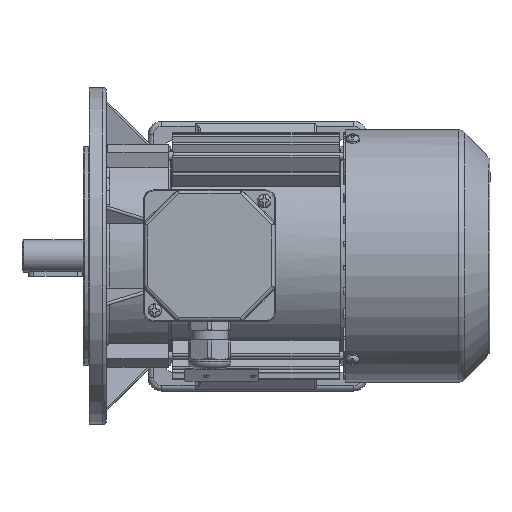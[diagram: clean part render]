
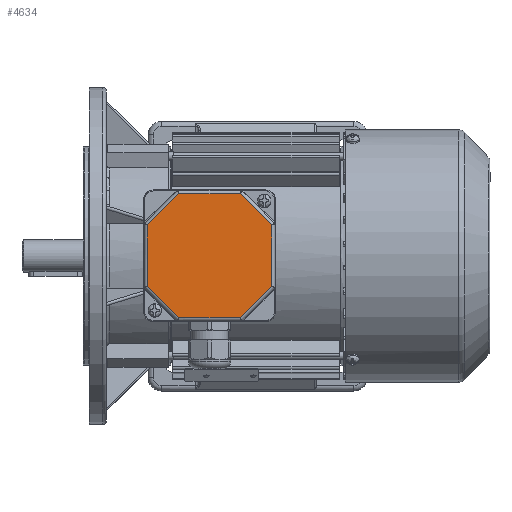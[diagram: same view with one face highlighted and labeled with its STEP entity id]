
A CAD part, top view. The second image highlights one B-rep face of the part: STEP entity #4634.
In plain terms, the highlighted planar face has unit normal (0, 0, 1).
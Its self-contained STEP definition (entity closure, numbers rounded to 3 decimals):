
#4634 = ADVANCED_FACE( '', ( #10772 ), #10773, .T. );
#10772 = FACE_OUTER_BOUND( '', #23736, .T. );
#10773 = PLANE( '', #23737 );
#23736 = EDGE_LOOP( '', ( #49616, #49617, #49618, #49619, #49620, #49621, #49622, #49623 ) );
#23737 = AXIS2_PLACEMENT_3D( '', #49624, #49625, #49626 );
#49616 = ORIENTED_EDGE( '', *, *, #70712, .T. );
#49617 = ORIENTED_EDGE( '', *, *, #69578, .T. );
#49618 = ORIENTED_EDGE( '', *, *, #70713, .T. );
#49619 = ORIENTED_EDGE( '', *, *, #67310, .T. );
#49620 = ORIENTED_EDGE( '', *, *, #69531, .T. );
#49621 = ORIENTED_EDGE( '', *, *, #70714, .T. );
#49622 = ORIENTED_EDGE( '', *, *, #70715, .T. );
#49623 = ORIENTED_EDGE( '', *, *, #70716, .T. );
#49624 = CARTESIAN_POINT( '', ( -39., 39., 12. ) );
#49625 = DIRECTION( '', ( 0., 0., 1. ) );
#49626 = DIRECTION( '', ( 1., 0., 0. ) );
#67310 = EDGE_CURVE( '', #76696, #76697, #76698, .T. );
#69531 = EDGE_CURVE( '', #76697, #80561, #80562, .F. );
#69578 = EDGE_CURVE( '', #80638, #80639, #80640, .T. );
#70712 = EDGE_CURVE( '', #82487, #80638, #82488, .F. );
#70713 = EDGE_CURVE( '', #80639, #76696, #82489, .F. );
#70714 = EDGE_CURVE( '', #80561, #82490, #82491, .T. );
#70715 = EDGE_CURVE( '', #82490, #82492, #82493, .F. );
#70716 = EDGE_CURVE( '', #82492, #82487, #82494, .T. );
#76696 = VERTEX_POINT( '', #90507 );
#76697 = VERTEX_POINT( '', #90508 );
#76698 = LINE( '', #90509, #90510 );
#80561 = VERTEX_POINT( '', #99578 );
#80562 = LINE( '', #99579, #99580 );
#80638 = VERTEX_POINT( '', #99671 );
#80639 = VERTEX_POINT( '', #99672 );
#80640 = LINE( '', #99673, #99674 );
#82487 = VERTEX_POINT( '', #105124 );
#82488 = LINE( '', #105125, #105126 );
#82489 = LINE( '', #105127, #105128 );
#82490 = VERTEX_POINT( '', #105129 );
#82491 = LINE( '', #105130, #105131 );
#82492 = VERTEX_POINT( '', #105132 );
#82493 = LINE( '', #105133, #105134 );
#82494 = LINE( '', #105135, #105136 );
#90507 = CARTESIAN_POINT( '', ( -18.255, 36.825, 12. ) );
#90508 = CARTESIAN_POINT( '', ( -36.825, 18.255, 12. ) );
#90509 = CARTESIAN_POINT( '', ( -37.401, 17.679, 12. ) );
#90510 = VECTOR( '', #126121, 1000. );
#99578 = CARTESIAN_POINT( '', ( -36.825, -18.255, 12. ) );
#99579 = CARTESIAN_POINT( '', ( -36.825, -19.069, 12. ) );
#99580 = VECTOR( '', #128833, 1000. );
#99671 = CARTESIAN_POINT( '', ( 36.825, 18.255, 12. ) );
#99672 = CARTESIAN_POINT( '', ( 18.255, 36.825, 12. ) );
#99673 = CARTESIAN_POINT( '', ( 17.679, 37.401, 12. ) );
#99674 = VECTOR( '', #128903, 1000. );
#105124 = CARTESIAN_POINT( '', ( 36.825, -18.255, 12. ) );
#105125 = CARTESIAN_POINT( '', ( 36.825, 19.069, 12. ) );
#105126 = VECTOR( '', #130202, 1000. );
#105127 = CARTESIAN_POINT( '', ( -19.069, 36.825, 12. ) );
#105128 = VECTOR( '', #130203, 1000. );
#105129 = CARTESIAN_POINT( '', ( -18.255, -36.825, 12. ) );
#105130 = CARTESIAN_POINT( '', ( -17.679, -37.401, 12. ) );
#105131 = VECTOR( '', #130204, 1000. );
#105132 = CARTESIAN_POINT( '', ( 18.255, -36.825, 12. ) );
#105133 = CARTESIAN_POINT( '', ( 19.069, -36.825, 12. ) );
#105134 = VECTOR( '', #130205, 1000. );
#105135 = CARTESIAN_POINT( '', ( 37.401, -17.679, 12. ) );
#105136 = VECTOR( '', #130206, 1000. );
#126121 = DIRECTION( '', ( -0.707, -0.707, 0. ) );
#128833 = DIRECTION( '', ( 0., 1., 0. ) );
#128903 = DIRECTION( '', ( -0.707, 0.707, 0. ) );
#130202 = DIRECTION( '', ( 0., -1., 0. ) );
#130203 = DIRECTION( '', ( 1., 0., 0. ) );
#130204 = DIRECTION( '', ( 0.707, -0.707, 0. ) );
#130205 = DIRECTION( '', ( -1., 0., 0. ) );
#130206 = DIRECTION( '', ( 0.707, 0.707, 0. ) );
